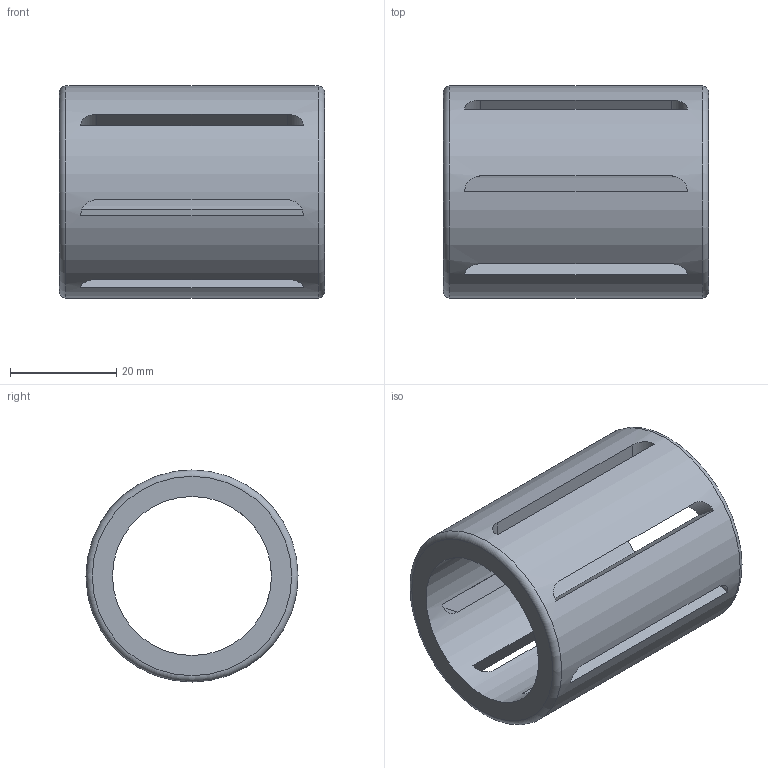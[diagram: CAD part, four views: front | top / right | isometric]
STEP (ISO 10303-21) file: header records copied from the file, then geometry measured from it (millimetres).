
FILE_DESCRIPTION(/* description */ ('Unknown'),/* implementation_level */ '2;1');
FILE_NAME(/* name */ 'KH3050',/* time_stamp */ '2025-02-04T09:52:35+08:00',/* author */ ('Unknown'),/* organization */ ('Unknown'),/* preprocessor_version */ 'ST-DEVELOPER v18.102',/* originating_system */ 'Solid Edge',/* authorisation */ 'Unknown');
FILE_SCHEMA (('AUTOMOTIVE_DESIGN {1 0 10303 214 3 1 1}'));
Length unit declared in the file: millimetre
Products named in the file (1): KH3050
Bounding box: 50 x 40 x 40 mm (x, y, z)
Volume: 23116.6 mm3; surface area: 13327.6 mm2
Topology: 1 solids, 1 shells, 34 faces, 94 edges, 62 vertices
Faces by surface type: cylinder 16, plane 16, torus 2
Full cylindrical faces by diameter (mm): 30 x1, 40 x1
Entity records: 1166 total; most frequent: CARTESIAN_POINT 299, ORIENTED_EDGE 180, DIRECTION 138, EDGE_CURVE 90, VERTEX_POINT 62, LINE 56, VECTOR 56, EDGE_LOOP 54
